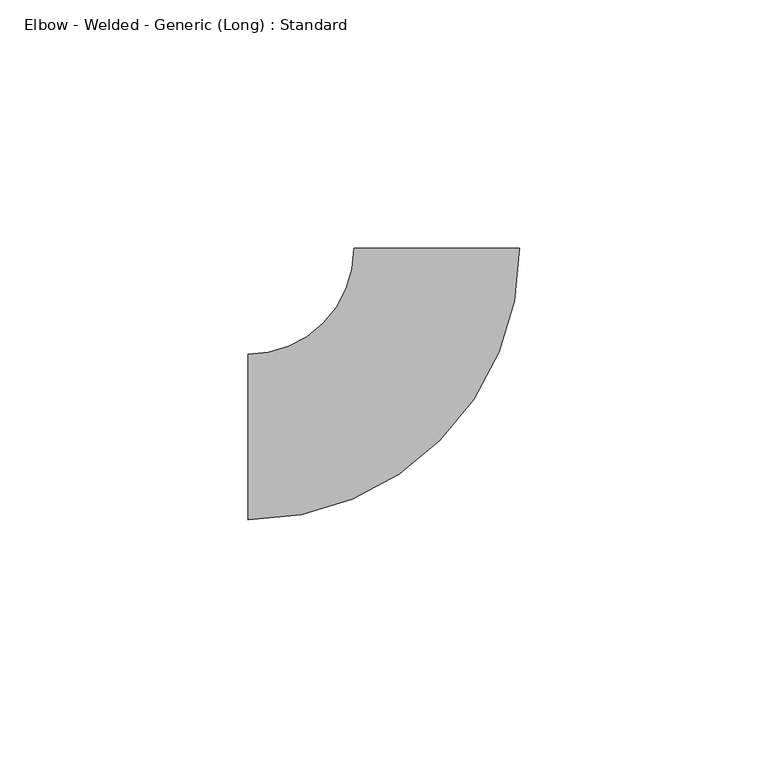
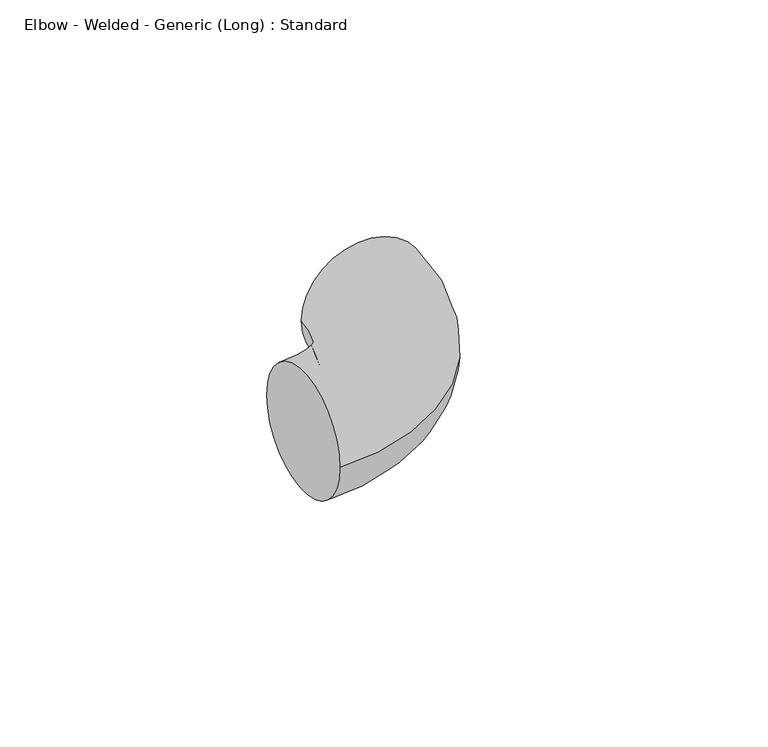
"""IFC4 building model written with IfcOpenShell, lengths in millimetres: pipe fitting geometry, Elbow - Welded - Generic (Long) : Standard."""

from ifc_helpers import new_model, si_unit, point, frame, origin, place, context, project, spatial, circle_curve, ellipse_curve, trimmed, source, transform, mapped, element, save
from ifc_brep_helpers import plane_surface, revolved_surface, advanced_brep


def elbow_welded_generic_long_standard_03f2b682(model_context):
    return source(origin(), model_context, "Body", "AdvancedBrep", [
        advanced_brep(
        [(-38.1, -16.66875, 0.0), (-38.1, 16.66875, 0.0), (16.6830063, 38.0937597, 0.0), (-16.6544913, 38.106235, 0.0)],
        [
            (0, 1, circle_curve(frame((-38.1, 0.0, 0.0), z_axis=(-1.0, 0.0, 0.0), x_axis=(0.0, 1.0, 0.0)), 16.66875)),
            (1, 0, circle_curve(frame((-38.1, 0.0, 0.0), z_axis=(-1.0, 0.0, 0.0), x_axis=(0.0, 1.0, 0.0)), 16.66875)),
            (2, 3, circle_curve(frame((0.0142575, 38.0999973, 0.0), z_axis=(0.000374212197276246, 0.9999999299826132, 0.0), x_axis=(-0.9999999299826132, 0.000374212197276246, 0.0)), 16.66875)),
            (3, 2, circle_curve(frame((0.0142575, 38.0999973, 0.0), z_axis=(0.000374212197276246, 0.9999999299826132, 0.0), x_axis=(-0.9999999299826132, 0.000374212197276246, 0.0)), 16.66875)),
            (3, 1, circle_curve(frame((-38.1, 38.1142602, 0.0), z_axis=(0.0, 0.0, -1.0), x_axis=(0.0, -1.0, 0.0)), 21.4455102)),
            (0, 2, circle_curve(frame((-38.1, 38.1142602, 0.0), z_axis=(0.0, 0.0, 1.0), x_axis=(0.0, -1.0, 0.0)), 54.7830102)),
        ],
        [
            plane_surface(frame((-38.1, 0.0, 0.0), z_axis=(-1.0, 0.0, 0.0), x_axis=(0.0, 0.0, 1.0))),
            plane_surface(frame((0.0142575, 38.0999973, 0.0), z_axis=(0.0003742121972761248, 0.9999999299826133, 0.0), x_axis=(0.0, 0.0, 1.0))),
            revolved_surface(trimmed(ellipse_curve(frame((-38.1, 0.0, 0.0), z_axis=(-1.0, 0.0, 0.0), x_axis=(0.0, 1.0, 0.0)), 16.66875, 16.66875), [point((-38.1, -16.66875, 0.0))], [point((-38.1, 16.66875, 0.0))], True, "CARTESIAN"), (-38.1, 38.1142602, 0.0), (0.0, 0.0, 1.0)),
            revolved_surface(trimmed(ellipse_curve(frame((-38.1, 0.0, 0.0), z_axis=(-1.0, 0.0, 0.0), x_axis=(0.0, 1.0, 0.0)), 16.66875, 16.66875), [point((-38.1, 16.66875, 0.0))], [point((-38.1, -16.66875, 0.0))], True, "CARTESIAN"), (-38.1, 38.1142602, 0.0), (0.0, 0.0, 1.0)),
        ],
        [
            (0, [[1, 2]]),
            (1, [[3, 4]]),
            (2, [[5, -1, 6, -4]]),
            (3, [[-6, -2, -5, -3]]),
        ],
    ),
    ])


if __name__ == "__main__":
    model = new_model("IFC4")
    model_context = context("Model", 3, world=origin())
    ifc_project = project(units=[si_unit("LENGTHUNIT", "METRE", prefix="MILLI")], contexts=[model_context])
    site = spatial("IfcSite", under=ifc_project)
    building = spatial("IfcBuilding", under=site)
    placement = place(None, origin())
    elbow_welded_generic_long_standard_shape = elbow_welded_generic_long_standard_03f2b682(model_context)
    element("IfcPipeFitting", 1, ObjectType="Elbow - Welded - Generic (Long) : Standard", at=placement, inside=building, context=model_context, shape_type="MappedRepresentation", body=[
        mapped(elbow_welded_generic_long_standard_shape, transform((0.0, 0.0, 0.0), x_axis=(1.0, 0.0, 0.0), y_axis=(0.0, 1.0, 0.0), z_axis=(0.0, 0.0, 1.0))),
    ])
    save(model, "model.ifc")
